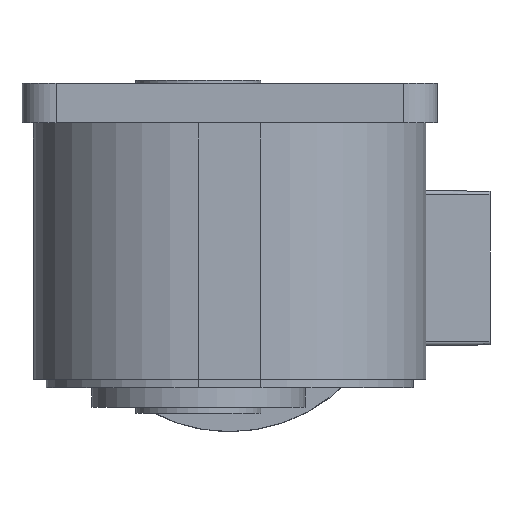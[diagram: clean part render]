
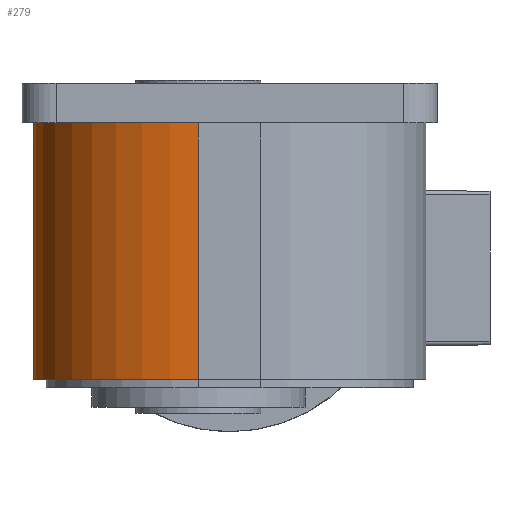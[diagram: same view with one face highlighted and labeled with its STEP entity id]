
A CAD part, left-side view. The second image highlights one B-rep face of the part: STEP entity #279.
In plain terms, the highlighted cylindrical face has radius 58 mm (diameter 116 mm), a partial arc.
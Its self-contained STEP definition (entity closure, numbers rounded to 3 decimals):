
#279 = ADVANCED_FACE( '', ( #870 ), #871, .T. );
#870 = FACE_OUTER_BOUND( '', #2053, .T. );
#871 = CYLINDRICAL_SURFACE( '', #2054, 58. );
#2053 = EDGE_LOOP( '', ( #3535, #3536, #3537, #3538 ) );
#2054 = AXIS2_PLACEMENT_3D( '', #3539, #3540, #3541 );
#3535 = ORIENTED_EDGE( '', *, *, #7858, .F. );
#3536 = ORIENTED_EDGE( '', *, *, #7859, .F. );
#3537 = ORIENTED_EDGE( '', *, *, #7847, .T. );
#3538 = ORIENTED_EDGE( '', *, *, #7860, .T. );
#3539 = CARTESIAN_POINT( '', ( -104., 0., 0. ) );
#3540 = DIRECTION( '', ( -1., 0., 0. ) );
#3541 = DIRECTION( '', ( 0., 0., -1. ) );
#7847 = EDGE_CURVE( '', #9404, #9401, #9405, .T. );
#7858 = EDGE_CURVE( '', #9425, #9426, #9427, .T. );
#7859 = EDGE_CURVE( '', #9404, #9425, #9428, .T. );
#7860 = EDGE_CURVE( '', #9401, #9426, #9429, .T. );
#9401 = VERTEX_POINT( '', #11918 );
#9404 = VERTEX_POINT( '', #11922 );
#9405 = CIRCLE( '', #11923, 58. );
#9425 = VERTEX_POINT( '', #11950 );
#9426 = VERTEX_POINT( '', #11951 );
#9427 = CIRCLE( '', #11952, 58. );
#9428 = LINE( '', #11953, #11954 );
#9429 = LINE( '', #11955, #11956 );
#11918 = CARTESIAN_POINT( '', ( -104., 0., 58. ) );
#11922 = CARTESIAN_POINT( '', ( -104., 58., 0. ) );
#11923 = AXIS2_PLACEMENT_3D( '', #15017, #15018, #15019 );
#11950 = CARTESIAN_POINT( '', ( -14., 58., 0. ) );
#11951 = CARTESIAN_POINT( '', ( -14., 0., 58. ) );
#11952 = AXIS2_PLACEMENT_3D( '', #15036, #15037, #15038 );
#11953 = CARTESIAN_POINT( '', ( -104., 58., 0. ) );
#11954 = VECTOR( '', #15039, 1000. );
#11955 = CARTESIAN_POINT( '', ( -104., 0., 58. ) );
#11956 = VECTOR( '', #15040, 1000. );
#15017 = CARTESIAN_POINT( '', ( -104., 0., 0. ) );
#15018 = DIRECTION( '', ( 1., 0., 0. ) );
#15019 = DIRECTION( '', ( 0., 0., -1. ) );
#15036 = CARTESIAN_POINT( '', ( -14., 0., 0. ) );
#15037 = DIRECTION( '', ( 1., 0., 0. ) );
#15038 = DIRECTION( '', ( 0., 0., -1. ) );
#15039 = DIRECTION( '', ( 1., 0., 0. ) );
#15040 = DIRECTION( '', ( 1., 0., 0. ) );
